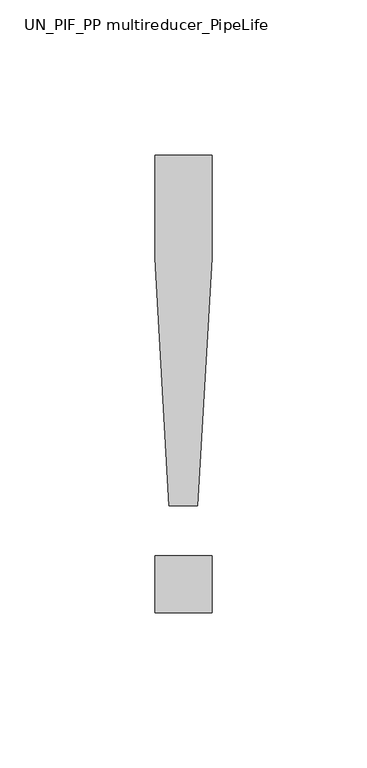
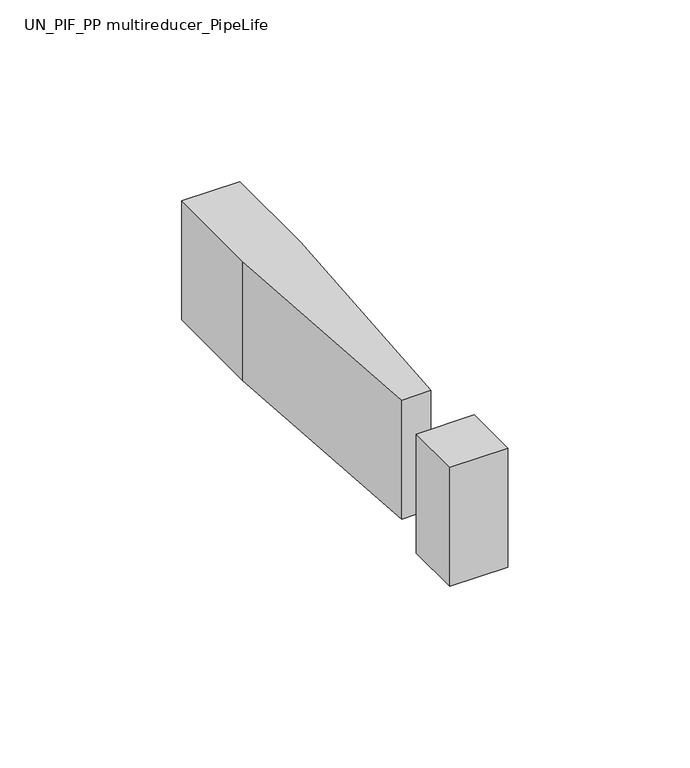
"""IFC4 building model written with IfcOpenShell, lengths in millimetres: pipe fitting geometry, UN_PIF_PP multireducer_PipeLife : Black, var. DN/OD (max. ø125)."""

import ifcopenshell
import ifcopenshell.guid

model = None  # the IFC model being written
_history = None  # IfcOwnerHistory: only IFC2X3 demands one
_inside = {}  # id of a spatial element -> (the spatial element, [elements in it])
_under = {}  # id of a project, library or spatial element -> (it, [spatial elements below it])
_declared = {}  # id of a project -> (the project, [libraries it declares])
_typed = {}  # id of a type object -> (the type object, [elements of that type])
_made_of = {}  # id of a material, layer set ... -> (it, [elements and type objects made of it])


def new_model(schema):
    """Start an empty IFC model of exactly this schema.

    Asked for "IFC4X3", IfcOpenShell would pick the latest addendum, in which some entities
    have other attributes; the version numbers below select the first issue.
    IFC2X3 requires an IfcOwnerHistory on every rooted entity: one is made here for all.
    """
    global model, _history
    if schema == "IFC4X3":
        model = ifcopenshell.file(schema_version=(4, 3, 0, 0))
    else:
        model = ifcopenshell.file(schema=schema)
    _inside.clear()
    _under.clear()
    _declared.clear()
    _typed.clear()
    _made_of.clear()
    _history = None
    if model.schema == "IFC2X3":
        org = make("IfcOrganization", Name="unknown")
        user = make(
            "IfcPersonAndOrganization",
            ThePerson=make("IfcPerson", FamilyName="unknown"),
            TheOrganization=org,
        )
        app = make(
            "IfcApplication",
            ApplicationDeveloper=org,
            Version="unknown",
            ApplicationFullName="unknown",
            ApplicationIdentifier="unknown",
        )
        _history = make(
            "IfcOwnerHistory",
            OwningUser=user,
            OwningApplication=app,
            ChangeAction="ADDED",
            CreationDate=0,
        )
    return model


def make(cls, **values):
    """One entity of the class cls with the attributes given. An attribute that is None is left unset."""
    return model.create_entity(
        cls, **{name: value for name, value in values.items() if value is not None}
    )


def rooted(cls, **values):
    """An entity with a GlobalId (a new one), such as an element, a storey or a relation."""
    return make(cls, GlobalId=ifcopenshell.guid.new(), OwnerHistory=_history, **values)


def si_unit(unit_type, name, prefix=None):
    """IfcSIUnit, for example si_unit("LENGTHUNIT", "METRE", prefix="MILLI")."""
    return make("IfcSIUnit", UnitType=unit_type, Prefix=prefix, Name=name)


def assignment(units):
    """IfcUnitAssignment: the units of a project."""
    return None if units is None else make("IfcUnitAssignment", Units=units)


def point(xyz):
    """IfcCartesianPoint."""
    return None if xyz is None else make("IfcCartesianPoint", Coordinates=xyz)


def direction(xyz):
    """IfcDirection."""
    return None if xyz is None else make("IfcDirection", DirectionRatios=xyz)


def frame(location, z_axis=None, x_axis=None):
    """IfcAxis2Placement3D, a coordinate frame: its origin and axes. An axis left out is left unset."""
    return make(
        "IfcAxis2Placement3D",
        Location=point(location),
        Axis=direction(z_axis),
        RefDirection=direction(x_axis),
    )


def origin():
    """The frame at (0, 0, 0) with its axes left unset."""
    return frame((0.0, 0.0, 0.0))


def place(relative_to, where):
    """IfcLocalPlacement: puts the frame where relative to a parent placement (None: the world)."""
    return make(
        "IfcLocalPlacement", PlacementRelTo=relative_to, RelativePlacement=where
    )


def context(
    kind, dimensions, precision=None, world=None, true_north=None, identifier=None
):
    """IfcGeometricRepresentationContext, for example the 3D "Model" context."""
    return make(
        "IfcGeometricRepresentationContext",
        ContextIdentifier=identifier,
        ContextType=kind,
        CoordinateSpaceDimension=dimensions,
        Precision=precision,
        WorldCoordinateSystem=world,
        TrueNorth=true_north,
    )


def project(units=None, contexts=None):
    """IfcProject with its units and contexts."""
    return rooted(
        "IfcProject",
        Name="project",
        RepresentationContexts=contexts,
        UnitsInContext=assignment(units),
    )


def spatial(cls, under=None, at=None, **own):
    """A site, building, storey or space (cls), placed at a placement, below another one or the project."""
    s = rooted(cls, ObjectPlacement=at, **own)
    if under is not None:
        _under.setdefault(under.id(), (under, []))[1].append(s)
    return s


def polyline(points):
    """IfcPolyline through the points."""
    return make("IfcPolyline", Points=[point(p) for p in points])


def outline(outer, holes=None, kind="AREA"):
    """IfcArbitraryClosedProfileDef: a profile drawn as a closed curve; with holes, ...WithVoids."""
    if holes is None:
        return make("IfcArbitraryClosedProfileDef", ProfileType=kind, OuterCurve=outer)
    return make(
        "IfcArbitraryProfileDefWithVoids",
        ProfileType=kind,
        OuterCurve=outer,
        InnerCurves=holes,
    )


def extrude(swept, where, along, depth):
    """IfcExtrudedAreaSolid: the profile swept, set in the frame where, extruded along a direction by depth."""
    return make(
        "IfcExtrudedAreaSolid",
        SweptArea=swept,
        Position=where,
        ExtrudedDirection=direction(along),
        Depth=depth,
    )


def shape(context_of_items, identifier, shape_type, items):
    """IfcShapeRepresentation: the items that make up one representation, for example the "Body"."""
    return make(
        "IfcShapeRepresentation",
        ContextOfItems=context_of_items,
        RepresentationIdentifier=identifier,
        RepresentationType=shape_type,
        Items=items,
    )


def source(mapping_origin, context_of_items, identifier, shape_type, items):
    """IfcRepresentationMap: a shape defined once, which mapped items show again and again."""
    return make(
        "IfcRepresentationMap",
        MappingOrigin=mapping_origin,
        MappedRepresentation=shape(context_of_items, identifier, shape_type, items),
    )


def transform(
    local_origin,
    x_axis=None,
    y_axis=None,
    z_axis=None,
    scale=None,
    scale2=None,
    scale3=None,
    uniform=True,
):
    """IfcCartesianTransformationOperator3D, or its non-uniform kind. x_axis, y_axis, z_axis: its Axis1, 2, 3."""
    if uniform:
        return make(
            "IfcCartesianTransformationOperator3D",
            Axis1=direction(x_axis),
            Axis2=direction(y_axis),
            LocalOrigin=point(local_origin),
            Scale=scale,
            Axis3=direction(z_axis),
        )
    return make(
        "IfcCartesianTransformationOperator3DnonUniform",
        Axis1=direction(x_axis),
        Axis2=direction(y_axis),
        LocalOrigin=point(local_origin),
        Scale=scale,
        Axis3=direction(z_axis),
        Scale2=scale2,
        Scale3=scale3,
    )


def mapped(mapping_source, mapping_target):
    """IfcMappedItem: shows the shape of a source again, moved by a transform."""
    return make(
        "IfcMappedItem", MappingSource=mapping_source, MappingTarget=mapping_target
    )


def made_of(thing, what):
    """Note that an element or type object is made of a material, layer set ...; save() writes the relation."""
    if what is not None:
        _made_of.setdefault(what.id(), (what, []))[1].append(thing)
    return thing


def element(
    cls,
    number,
    at=None,
    inside=None,
    cuts=None,
    type_object=None,
    material=None,
    context=None,
    identifier="Body",
    shape_type=None,
    held_by="IfcProductDefinitionShape",
    body=None,
    shapes=None,
    **own,
):
    """One element of the class cls, such as IfcWall. Its Tag is "e" and its number.

    at: its placement. inside: the storey or other place that contains it. cuts: it is an
    opening in that element (IfcRelVoidsElement). A single representation is given by context,
    identifier, shape_type and body (its items); several are given by shapes. held_by: the class
    of the entity that holds the representations. save() writes the other relations.
    """
    e = rooted(cls, Tag="e%d" % number, ObjectPlacement=at, **own)
    if body is not None:
        shapes = [shape(context, identifier, shape_type, body)]
    if shapes is not None:
        e.Representation = make(held_by, Representations=shapes)
    if inside is not None:
        _inside.setdefault(inside.id(), (inside, []))[1].append(e)
    if cuts is not None:
        rooted(
            "IfcRelVoidsElement", RelatingBuildingElement=cuts, RelatedOpeningElement=e
        )
    if type_object is not None:
        _typed.setdefault(type_object.id(), (type_object, []))[1].append(e)
    return made_of(e, material)


def aggregate(whole, parts):
    """IfcRelAggregates: a whole, such as a stair, and the parts it consists of."""
    return rooted("IfcRelAggregates", RelatingObject=whole, RelatedObjects=parts)


def save(model, path):
    """Write the relations noted so far, then the file.

    IfcRelAggregates (storeys below a building ...), IfcRelContainedInSpatialStructure (elements
    in a storey), IfcRelDefinesByType, IfcRelAssociatesMaterial and IfcRelDeclares: one each for
    every whole, place, type object, material and project.
    """
    for whole, parts in _under.values():
        aggregate(whole, parts)
    for where, things in _inside.values():
        rooted(
            "IfcRelContainedInSpatialStructure",
            RelatedElements=things,
            RelatingStructure=where,
        )
    for kind, things in _typed.values():
        rooted("IfcRelDefinesByType", RelatedObjects=things, RelatingType=kind)
    for what, things in _made_of.values():
        rooted("IfcRelAssociatesMaterial", RelatedObjects=things, RelatingMaterial=what)
    for by, libraries in _declared.values():
        rooted("IfcRelDeclares", RelatingContext=by, RelatedDefinitions=libraries)
    model.write(path)


def un_pif_pp_multireducer_pipelife_35e17b16(model_context):
    return source(origin(), model_context, "Body", "SweptSolid", [
        extrude(outline(polyline([(19.8106764, -190.0), (19.8106764, -171.5384615), (38.2722149, -171.5384615), (38.2722149, -190.0), (19.8106764, -190.0)])), frame((0.0, 0.0, -20.0), z_axis=(0.0, 0.0, 1.0), x_axis=(1.0, 0.0, 0.0)), (0.0, 0.0, 1.0), 40.0),
        extrude(outline(polyline([(24.426061, -155.3846154), (19.8106764, -75.6610577), (19.8106764, -42.3076923), (38.2722149, -42.3076923), (38.2722149, -75.6610577), (33.6568303, -155.3846154), (24.426061, -155.3846154)])), frame((0.0, 0.0, -20.0), z_axis=(0.0, 0.0, 1.0), x_axis=(1.0, 0.0, 0.0)), (0.0, 0.0, 1.0), 40.0),
    ])


if __name__ == "__main__":
    model = new_model("IFC4")
    model_context = context("Model", 3, world=origin())
    ifc_project = project(units=[si_unit("LENGTHUNIT", "METRE", prefix="MILLI")], contexts=[model_context])
    site = spatial("IfcSite", under=ifc_project)
    building = spatial("IfcBuilding", under=site)
    placement = place(None, origin())
    un_pif_pp_multireducer_pipelife_shape = un_pif_pp_multireducer_pipelife_35e17b16(model_context)
    element("IfcPipeFitting", 1, ObjectType="UN_PIF_PP multireducer_PipeLife : Black, var. DN/OD (max. ø125)", at=placement, inside=building, context=model_context, shape_type="MappedRepresentation", body=[
        mapped(un_pif_pp_multireducer_pipelife_shape, transform((0.0, 0.0, 0.0), x_axis=(1.0, 0.0, 0.0), y_axis=(0.0, 1.0, 0.0), z_axis=(0.0, 0.0, 1.0))),
    ])
    save(model, "model.ifc")
